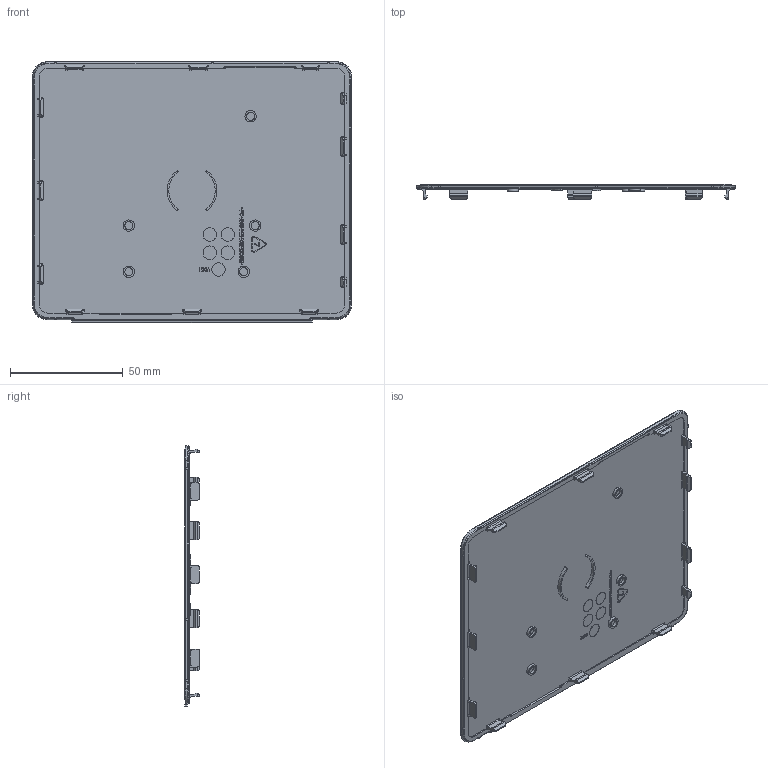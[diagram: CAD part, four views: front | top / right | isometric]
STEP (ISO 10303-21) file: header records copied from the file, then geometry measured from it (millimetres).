
FILE_DESCRIPTION((''),'2;1');
FILE_NAME('GR_TOP_COVER','2026-07-07T16:18:02',('Jacky_Chien'),(''),'CREO PARAMETRIC BY PTC INC, 2020184','CREO PARAMETRIC BY PTC INC, 2020184','');
FILE_SCHEMA(('AUTOMOTIVE_DESIGN { 1 0 10303 214 1 1 1 1 }'));
Length unit declared in the file: millimetre
Products named in the file (1): GR_TOP_COVER
Bounding box: 141.6 x 6.6 x 115.8 mm (x, y, z)
Volume: 25217 mm3; surface area: 34940.5 mm2
Topology: 1 solids, 1 shells, 1231 faces, 3339 edges, 2170 vertices
Faces by surface type: plane 980, cylinder 195, bspline 32, cone 12, sphere 8, torus 4
Entity records: 50090 total; most frequent: CARTESIAN_POINT 8705, ORIENTED_EDGE 6678, DIRECTION 5937, PRESENTATION_STYLE_ASSIGNMENT 3340, STYLED_ITEM 3340, CURVE_STYLE 3339, EDGE_CURVE 3339, VECTOR 2891
